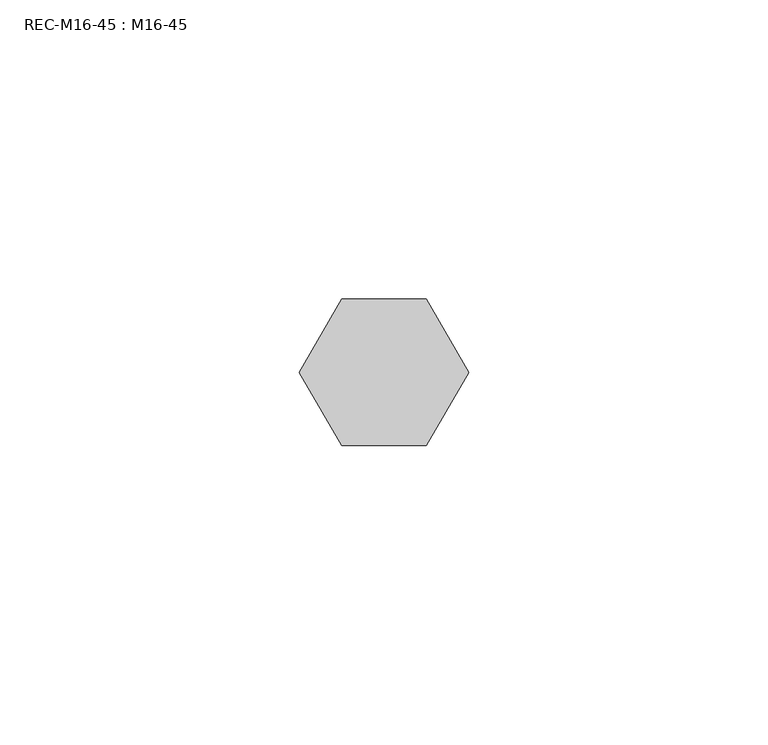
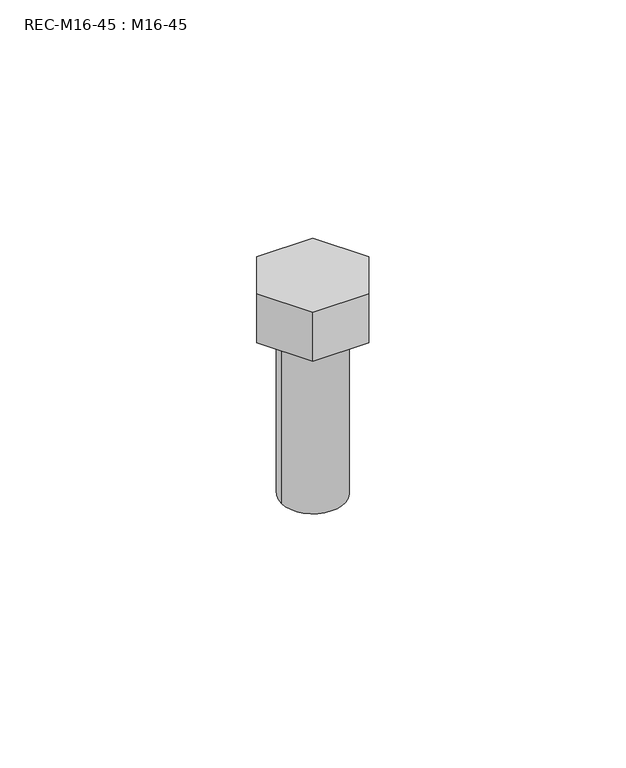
"""IFC4 building model written with IfcOpenShell, lengths in millimetres: fastener geometry, REC-M16-45 : M16-45."""

from ifc_helpers import new_model, si_unit, point, frame, origin, origin_with_axes, origin_2d, place, context, project, spatial, polyline, circle_curve, trimmed, segment, composite_curve, outline, extrude, source, transform, mapped, element, save


def rec_m16_45_m16_45_2a5d1326(model_context):
    return source(origin(), model_context, "Body", "SweptSolid", [
        extrude(outline(polyline([(-7.0686036, 12.2431805), (7.0686036, 12.2431805), (14.1372072, 0.0), (7.0686036, -12.2431805), (-7.0686036, -12.2431805), (-14.1372072, 0.0), (-7.0686036, 12.2431805)])), origin_with_axes(), (0.0, 0.0, 1.0), 13.0),
        extrude(outline(composite_curve([segment(trimmed(circle_curve(origin_2d(), 8.0), [point((-8.0, 0.0))], [point((8.0, 0.0))], False, "CARTESIAN"), True, "CONTINUOUS"), segment(trimmed(circle_curve(origin_2d(), 8.0), [point((8.0, 0.0))], [point((-8.0, 0.0))], False, "CARTESIAN"), True, "CONTINUOUS")], self_intersect=False)), frame((0.0, 0.0, -45.0), z_axis=(0.0, 0.0, 1.0), x_axis=(1.0, 0.0, 0.0)), (0.0, 0.0, 1.0), 45.0),
    ])


if __name__ == "__main__":
    model = new_model("IFC4")
    model_context = context("Model", 3, world=origin())
    ifc_project = project(units=[si_unit("LENGTHUNIT", "METRE", prefix="MILLI")], contexts=[model_context])
    site = spatial("IfcSite", under=ifc_project)
    building = spatial("IfcBuilding", under=site)
    placement = place(None, origin())
    rec_m16_45_m16_45_shape = rec_m16_45_m16_45_2a5d1326(model_context)
    element("IfcFastener", 1, ObjectType="REC-M16-45 : M16-45", at=placement, inside=building, context=model_context, shape_type="MappedRepresentation", body=[
        mapped(rec_m16_45_m16_45_shape, transform((0.0, 0.0, 0.0), x_axis=(1.0, 0.0, 0.0), y_axis=(0.0, 1.0, 0.0), z_axis=(0.0, 0.0, 1.0))),
    ])
    save(model, "model.ifc")
